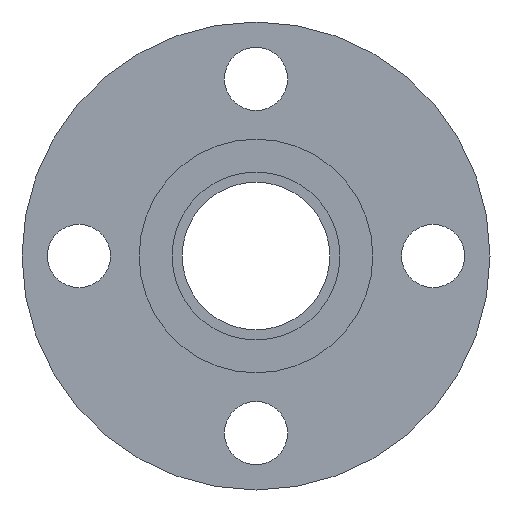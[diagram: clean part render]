
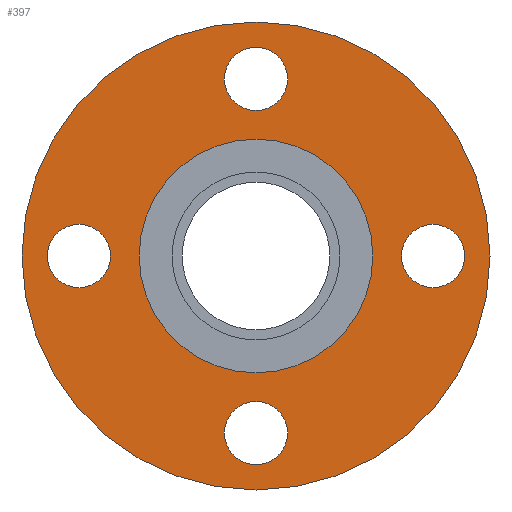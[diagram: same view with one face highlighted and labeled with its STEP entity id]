
A CAD part, left-side view. The second image highlights one B-rep face of the part: STEP entity #397.
In plain terms, the highlighted planar face has unit normal (-1, 0, 0).
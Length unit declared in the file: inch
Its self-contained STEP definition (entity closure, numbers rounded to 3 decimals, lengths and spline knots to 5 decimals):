
#49=FACE_BOUND('',#103,.T.);
#50=FACE_BOUND('',#104,.T.);
#51=FACE_BOUND('',#105,.T.);
#52=FACE_BOUND('',#106,.T.);
#53=FACE_BOUND('',#107,.T.);
#64=PLANE('',#463);
#80=FACE_OUTER_BOUND('',#102,.T.);
#102=EDGE_LOOP('',(#321,#322));
#103=EDGE_LOOP('',(#323));
#104=EDGE_LOOP('',(#324));
#105=EDGE_LOOP('',(#325));
#106=EDGE_LOOP('',(#326));
#107=EDGE_LOOP('',(#327,#328));
#141=CIRCLE('',#424,0.3125);
#143=CIRCLE('',#427,0.3125);
#145=CIRCLE('',#430,0.3125);
#147=CIRCLE('',#433,0.3125);
#166=CIRCLE('',#461,1.155);
#167=CIRCLE('',#462,1.155);
#168=CIRCLE('',#464,2.3125);
#169=CIRCLE('',#465,2.3125);
#177=VERTEX_POINT('',#640);
#179=VERTEX_POINT('',#646);
#181=VERTEX_POINT('',#652);
#183=VERTEX_POINT('',#658);
#202=VERTEX_POINT('',#710);
#203=VERTEX_POINT('',#711);
#204=VERTEX_POINT('',#716);
#205=VERTEX_POINT('',#717);
#214=EDGE_CURVE('',#177,#177,#141,.T.);
#217=EDGE_CURVE('',#179,#179,#143,.T.);
#220=EDGE_CURVE('',#181,#181,#145,.T.);
#223=EDGE_CURVE('',#183,#183,#147,.T.);
#246=EDGE_CURVE('',#202,#203,#166,.T.);
#247=EDGE_CURVE('',#203,#202,#167,.T.);
#249=EDGE_CURVE('',#204,#205,#168,.T.);
#250=EDGE_CURVE('',#205,#204,#169,.T.);
#321=ORIENTED_EDGE('',*,*,#249,.F.);
#322=ORIENTED_EDGE('',*,*,#250,.F.);
#323=ORIENTED_EDGE('',*,*,#214,.T.);
#324=ORIENTED_EDGE('',*,*,#217,.T.);
#325=ORIENTED_EDGE('',*,*,#220,.T.);
#326=ORIENTED_EDGE('',*,*,#223,.T.);
#327=ORIENTED_EDGE('',*,*,#246,.T.);
#328=ORIENTED_EDGE('',*,*,#247,.T.);
#397=ADVANCED_FACE('',(#80,#49,#50,#51,#52,#53),#64,.T.);
#424=AXIS2_PLACEMENT_3D('',#642,#496,#497);
#427=AXIS2_PLACEMENT_3D('',#648,#503,#504);
#430=AXIS2_PLACEMENT_3D('',#654,#510,#511);
#433=AXIS2_PLACEMENT_3D('',#660,#517,#518);
#461=AXIS2_PLACEMENT_3D('',#712,#577,#578);
#462=AXIS2_PLACEMENT_3D('',#713,#579,#580);
#463=AXIS2_PLACEMENT_3D('',#715,#582,#583);
#464=AXIS2_PLACEMENT_3D('',#718,#584,#585);
#465=AXIS2_PLACEMENT_3D('',#719,#586,#587);
#496=DIRECTION('center_axis',(1.,0.,0.));
#497=DIRECTION('ref_axis',(0.,1.,0.));
#503=DIRECTION('center_axis',(1.,0.,0.));
#504=DIRECTION('ref_axis',(0.,0.,-1.));
#510=DIRECTION('center_axis',(1.,0.,0.));
#511=DIRECTION('ref_axis',(0.,-1.,0.));
#517=DIRECTION('center_axis',(1.,0.,0.));
#518=DIRECTION('ref_axis',(0.,0.,1.));
#577=DIRECTION('center_axis',(1.,0.,0.));
#578=DIRECTION('ref_axis',(0.,0.,-1.));
#579=DIRECTION('center_axis',(1.,0.,0.));
#580=DIRECTION('ref_axis',(0.,0.,-1.));
#582=DIRECTION('center_axis',(-1.,0.,0.));
#583=DIRECTION('ref_axis',(0.,0.,1.));
#584=DIRECTION('center_axis',(1.,0.,0.));
#585=DIRECTION('ref_axis',(0.,0.,-1.));
#586=DIRECTION('center_axis',(1.,0.,0.));
#587=DIRECTION('ref_axis',(0.,0.,-1.));
#640=CARTESIAN_POINT('',(-0.6225,-0.3125,-1.75));
#642=CARTESIAN_POINT('Origin',(-0.6225,0.,-1.75));
#646=CARTESIAN_POINT('',(-0.6225,-1.75,0.3125));
#648=CARTESIAN_POINT('Origin',(-0.6225,-1.75,0.));
#652=CARTESIAN_POINT('',(-0.6225,0.3125,1.75));
#654=CARTESIAN_POINT('Origin',(-0.6225,0.,1.75));
#658=CARTESIAN_POINT('',(-0.6225,1.75,-0.3125));
#660=CARTESIAN_POINT('Origin',(-0.6225,1.75,0.));
#710=CARTESIAN_POINT('',(-0.6225,1.155,0.));
#711=CARTESIAN_POINT('',(-0.6225,-1.155,0.));
#712=CARTESIAN_POINT('Origin',(-0.6225,0.,
0.));
#713=CARTESIAN_POINT('Origin',(-0.6225,0.,
0.));
#715=CARTESIAN_POINT('Origin',(-0.6225,2.3125,0.));
#716=CARTESIAN_POINT('',(-0.6225,2.3125,0.));
#717=CARTESIAN_POINT('',(-0.6225,-2.3125,0.));
#718=CARTESIAN_POINT('Origin',(-0.6225,0.,0.));
#719=CARTESIAN_POINT('Origin',(-0.6225,0.,0.));
